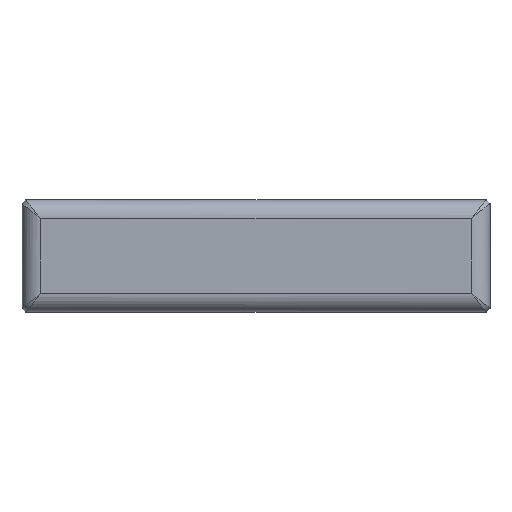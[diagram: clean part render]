
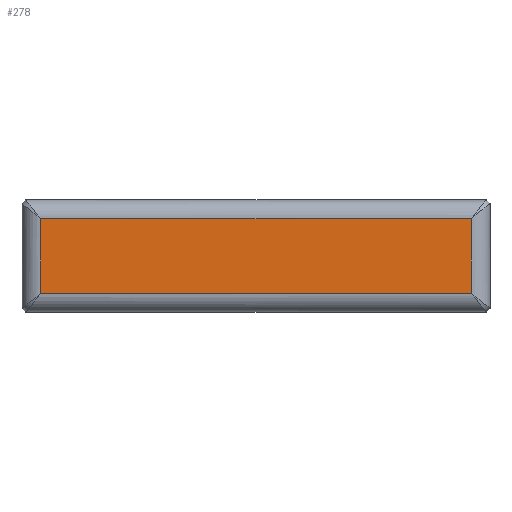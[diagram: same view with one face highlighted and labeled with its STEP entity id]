
A CAD part, top view. The second image highlights one B-rep face of the part: STEP entity #278.
In plain terms, the highlighted planar face has unit normal (0, 0, 1).
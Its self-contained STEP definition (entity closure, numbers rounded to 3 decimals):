
#25 = ORIENTED_EDGE ( 'NONE', *, *, #300, .T. ) ;
#64 = ORIENTED_EDGE ( 'NONE', *, *, #474, .T. ) ;
#71 = VECTOR ( 'NONE', #865, 1000. ) ;
#164 = VERTEX_POINT ( 'NONE', #447 ) ;
#234 = VECTOR ( 'NONE', #1708, 1000. ) ;
#259 = VERTEX_POINT ( 'NONE', #612 ) ;
#278 = ADVANCED_FACE ( 'NONE', ( #1413 ), #631, .T. ) ;
#300 = EDGE_CURVE ( 'NONE', #164, #259, #1278, .T. ) ;
#393 = EDGE_CURVE ( 'NONE', #457, #164, #733, .T. ) ;
#447 = CARTESIAN_POINT ( 'NONE',  ( 11.5, 2., 0. ) ) ;
#457 = VERTEX_POINT ( 'NONE', #1773 ) ;
#474 = EDGE_CURVE ( 'NONE', #259, #1083, #2154, .T. ) ;
#576 = EDGE_CURVE ( 'NONE', #1083, #457, #1944, .T. ) ;
#612 = CARTESIAN_POINT ( 'NONE',  ( -11.5, 2., 0. ) ) ;
#631 = PLANE ( 'NONE',  #796 ) ;
#633 = CARTESIAN_POINT ( 'NONE',  ( 0., 0., 0. ) ) ;
#655 = DIRECTION ( 'NONE',  ( 0., 0., 1. ) ) ;
#656 = DIRECTION ( 'NONE',  ( 1., 0., 0. ) ) ;
#667 = CARTESIAN_POINT ( 'NONE',  ( -12.5, 2., 0. ) ) ;
#692 = DIRECTION ( 'NONE',  ( -1., 0., 0. ) ) ;
#720 = CARTESIAN_POINT ( 'NONE',  ( 11.5, 3., 0. ) ) ;
#733 = LINE ( 'NONE', #720, #2365 ) ;
#736 = DIRECTION ( 'NONE',  ( 0., 1., 0. ) ) ;
#796 = AXIS2_PLACEMENT_3D ( 'NONE', #633, #655, #656 ) ;
#827 = ORIENTED_EDGE ( 'NONE', *, *, #393, .T. ) ;
#865 = DIRECTION ( 'NONE',  ( 1., 0., 0. ) ) ;
#869 = CARTESIAN_POINT ( 'NONE',  ( 0., -2., 0. ) ) ;
#879 = VECTOR ( 'NONE', #692, 1000. ) ;
#1083 = VERTEX_POINT ( 'NONE', #1723 ) ;
#1278 = LINE ( 'NONE', #667, #879 ) ;
#1379 = EDGE_LOOP ( 'NONE', ( #25, #64, #1387, #827 ) ) ;
#1387 = ORIENTED_EDGE ( 'NONE', *, *, #576, .T. ) ;
#1413 = FACE_OUTER_BOUND ( 'NONE', #1379, .T. ) ;
#1693 = CARTESIAN_POINT ( 'NONE',  ( -11.5, 0., 0. ) ) ;
#1708 = DIRECTION ( 'NONE',  ( 0., -1., 0. ) ) ;
#1723 = CARTESIAN_POINT ( 'NONE',  ( -11.5, -2., 0. ) ) ;
#1773 = CARTESIAN_POINT ( 'NONE',  ( 11.5, -2., 0. ) ) ;
#1944 = LINE ( 'NONE', #869, #71 ) ;
#2154 = LINE ( 'NONE', #1693, #234 ) ;
#2365 = VECTOR ( 'NONE', #736, 1000. ) ;
